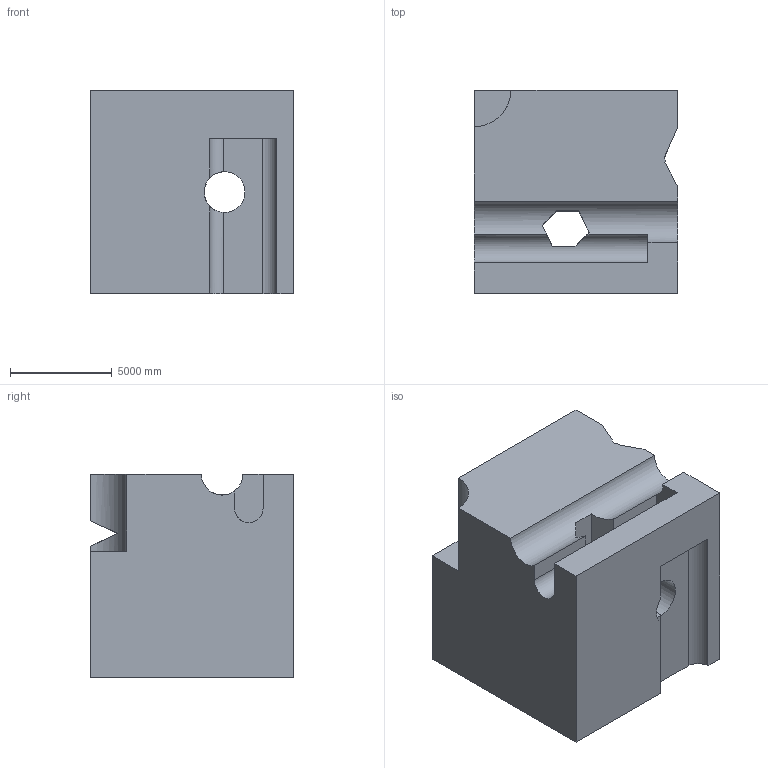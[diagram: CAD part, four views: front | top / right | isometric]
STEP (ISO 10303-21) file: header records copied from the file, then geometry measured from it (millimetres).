
FILE_DESCRIPTION (( 'STEP AP203' ), '1' );
FILE_NAME ('1980.STEP', '2022-08-26T13:44:00', ( 'user' ), ( '' ), 'SwSTEP 2.0', 'SolidWorks 2021', '' );
FILE_SCHEMA (( 'CONFIG_CONTROL_DESIGN' ));
Length unit declared in the file: centimetre
Products named in the file (1): 1980
Bounding box: 10000 x 10000 x 10000 mm (x, y, z)
Volume: 853496849947.1 mm3; surface area: 749883087.5 mm2
Topology: 1 solids, 1 shells, 39 faces, 120 edges, 80 vertices
Faces by surface type: plane 31, cylinder 8
Entity records: 1546 total; most frequent: CARTESIAN_POINT 400, ORIENTED_EDGE 240, DIRECTION 205, EDGE_CURVE 120, LINE 91, VECTOR 91, VERTEX_POINT 80, AXIS2_PLACEMENT_3D 57
